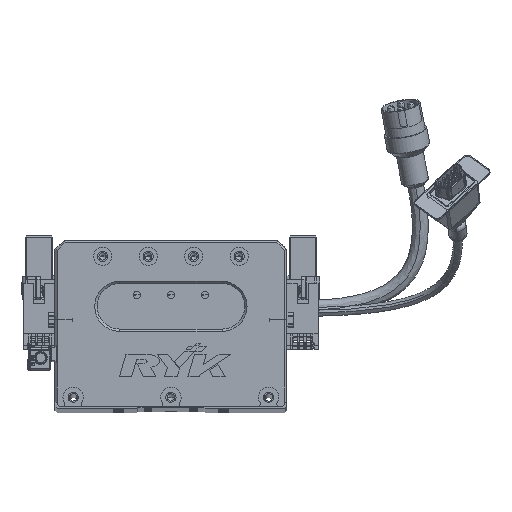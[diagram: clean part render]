
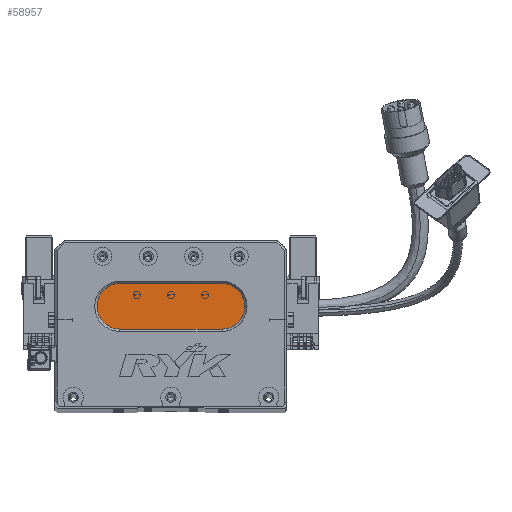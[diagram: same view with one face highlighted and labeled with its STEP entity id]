
A CAD part, top view. The second image highlights one B-rep face of the part: STEP entity #58957.
In plain terms, the highlighted planar face has unit normal (0, 0, 1) as drawn and (0, 0, -1) by its records, which use the part's own axes.
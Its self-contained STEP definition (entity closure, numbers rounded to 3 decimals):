
#511 = DIRECTION ( 'NONE',  ( 0., 0., -1. ) ) ;
#1314 = PLANE ( 'NONE',  #14585 ) ;
#1441 = CARTESIAN_POINT ( 'NONE',  ( 18.5, 44., 13. ) ) ;
#2756 = ORIENTED_EDGE ( 'NONE', *, *, #57160, .T. ) ;
#4193 = EDGE_CURVE ( 'NONE', #55968, #43087, #21019, .T. ) ;
#4784 = CIRCLE ( 'NONE', #35041, 10. ) ;
#10499 = EDGE_CURVE ( 'NONE', #64360, #35963, #21109, .T. ) ;
#11233 = DIRECTION ( 'NONE',  ( -1., 0., 0. ) ) ;
#11699 = CARTESIAN_POINT ( 'NONE',  ( 73.5, 34., 13. ) ) ;
#14585 = AXIS2_PLACEMENT_3D ( 'NONE', #16692, #58256, #58946 ) ;
#15987 = DIRECTION ( 'NONE',  ( 1., 0., 0. ) ) ;
#16692 = CARTESIAN_POINT ( 'NONE',  ( 73.5, 44., 13. ) ) ;
#19599 = EDGE_CURVE ( 'NONE', #32379, #64360, #66993, .T. ) ;
#21019 = CIRCLE ( 'NONE', #21513, 10. ) ;
#21109 = LINE ( 'NONE', #26639, #45742 ) ;
#21513 = AXIS2_PLACEMENT_3D ( 'NONE', #22088, #511, #53282 ) ;
#22088 = CARTESIAN_POINT ( 'NONE',  ( 28.5, 44., 13. ) ) ;
#23951 = DIRECTION ( 'NONE',  ( 0., 0., -1. ) ) ;
#25114 = AXIS2_PLACEMENT_3D ( 'NONE', #61335, #23951, #29885 ) ;
#26639 = CARTESIAN_POINT ( 'NONE',  ( 73.5, 34., 13. ) ) ;
#27157 = DIRECTION ( 'NONE',  ( 0., 0., -1. ) ) ;
#29885 = DIRECTION ( 'NONE',  ( -1., 0., 0. ) ) ;
#32379 = VERTEX_POINT ( 'NONE', #38528 ) ;
#34767 = ORIENTED_EDGE ( 'NONE', *, *, #4193, .T. ) ;
#35041 = AXIS2_PLACEMENT_3D ( 'NONE', #42996, #27157, #43233 ) ;
#35139 = CARTESIAN_POINT ( 'NONE',  ( 28.5, 34., 13. ) ) ;
#35963 = VERTEX_POINT ( 'NONE', #35139 ) ;
#36253 = FACE_OUTER_BOUND ( 'NONE', #66056, .T. ) ;
#36658 = ORIENTED_EDGE ( 'NONE', *, *, #19599, .T. ) ;
#38528 = CARTESIAN_POINT ( 'NONE',  ( 73.5, 54., 13. ) ) ;
#42996 = CARTESIAN_POINT ( 'NONE',  ( 28.5, 44., 13. ) ) ;
#43087 = VERTEX_POINT ( 'NONE', #66721 ) ;
#43233 = DIRECTION ( 'NONE',  ( -1., 0., 0. ) ) ;
#43872 = LINE ( 'NONE', #62613, #66868 ) ;
#45742 = VECTOR ( 'NONE', #11233, 1000. ) ;
#49299 = ORIENTED_EDGE ( 'NONE', *, *, #62331, .T. ) ;
#53282 = DIRECTION ( 'NONE',  ( -1., 0., 0. ) ) ;
#55968 = VERTEX_POINT ( 'NONE', #1441 ) ;
#57160 = EDGE_CURVE ( 'NONE', #43087, #32379, #43872, .T. ) ;
#58256 = DIRECTION ( 'NONE',  ( 0., 0., -1. ) ) ;
#58946 = DIRECTION ( 'NONE',  ( -1., 0., 0. ) ) ;
#58957 = ADVANCED_FACE ( 'NONE', ( #36253 ), #1314, .T. ) ;
#61335 = CARTESIAN_POINT ( 'NONE',  ( 73.5, 44., 13. ) ) ;
#62331 = EDGE_CURVE ( 'NONE', #35963, #55968, #4784, .T. ) ;
#62613 = CARTESIAN_POINT ( 'NONE',  ( 73.5, 54., 13. ) ) ;
#62744 = ORIENTED_EDGE ( 'NONE', *, *, #10499, .T. ) ;
#64360 = VERTEX_POINT ( 'NONE', #11699 ) ;
#66056 = EDGE_LOOP ( 'NONE', ( #36658, #62744, #49299, #34767, #2756 ) ) ;
#66721 = CARTESIAN_POINT ( 'NONE',  ( 28.5, 54., 13. ) ) ;
#66868 = VECTOR ( 'NONE', #15987, 1000. ) ;
#66993 = CIRCLE ( 'NONE', #25114, 10. ) ;
